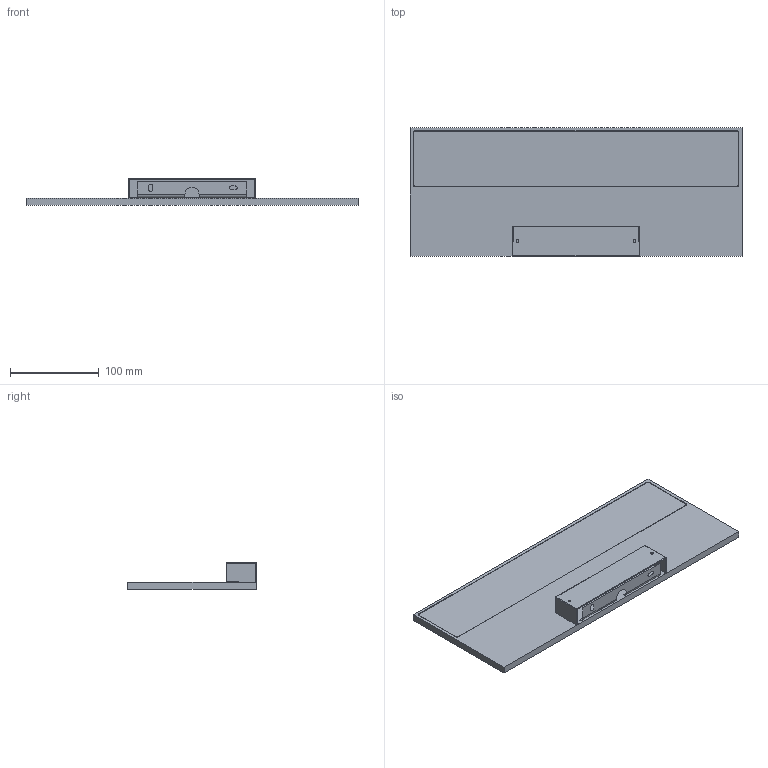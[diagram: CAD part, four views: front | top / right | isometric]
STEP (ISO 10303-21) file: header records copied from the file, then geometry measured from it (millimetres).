
FILE_DESCRIPTION((''),'2;1');
FILE_NAME('SOTTILE_375_OPALE','2025-05-13T14:09:53',('elena.baldelli'),(''),'CREO PARAMETRIC BY PTC INC, 2020354','CREO PARAMETRIC BY PTC INC, 2020354','');
FILE_SCHEMA(('CONFIG_CONTROL_DESIGN'));
Length unit declared in the file: millimetre
Products named in the file (1): SOTTILE_375_OPALE
Bounding box: 375 x 145 x 30.29 mm (x, y, z)
Surface area: 128648 mm2 (no closed solid volume)
Topology: 0 solids, 4 shells, 23 faces, 100 edges, 78 vertices
Faces by surface type: plane 13, cylinder 10
Entity records: 1188 total; most frequent: CARTESIAN_POINT 343, DIRECTION 171, ORIENTED_EDGE 130, EDGE_CURVE 100, VERTEX_POINT 78, VECTOR 59, LINE 59, AXIS2_PLACEMENT_3D 56
